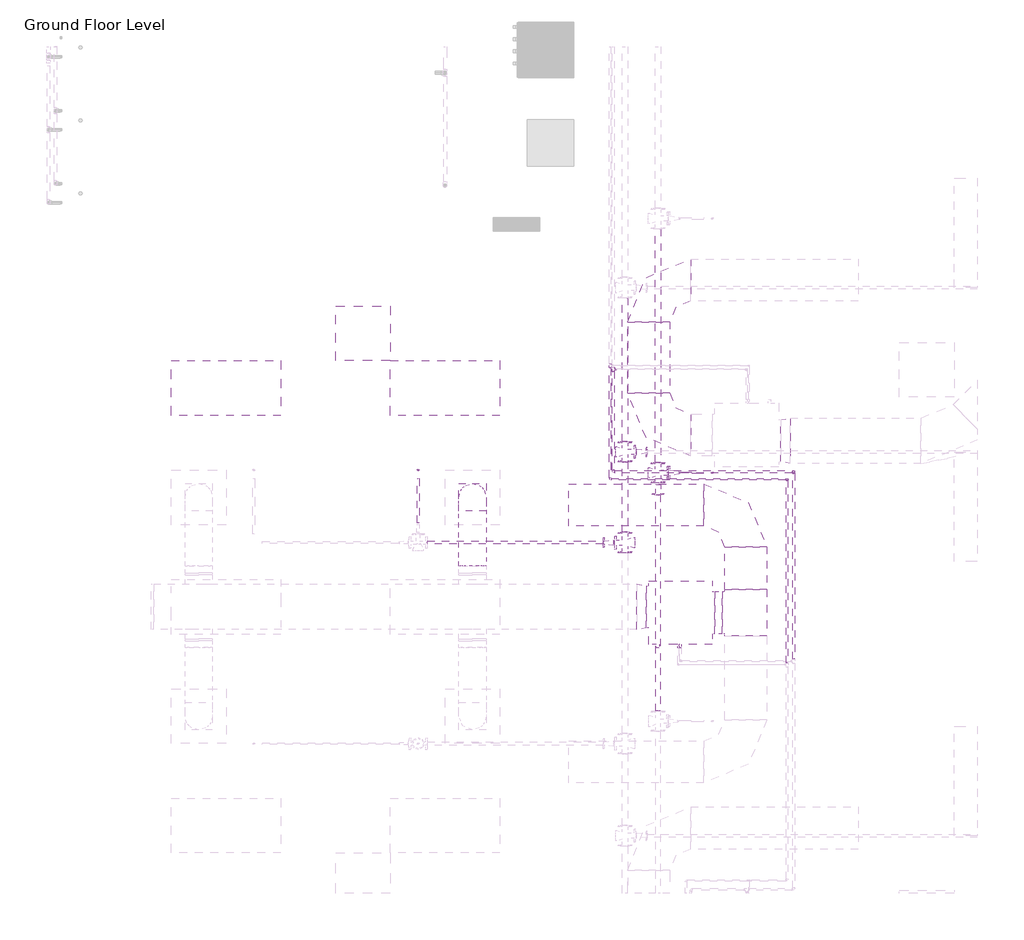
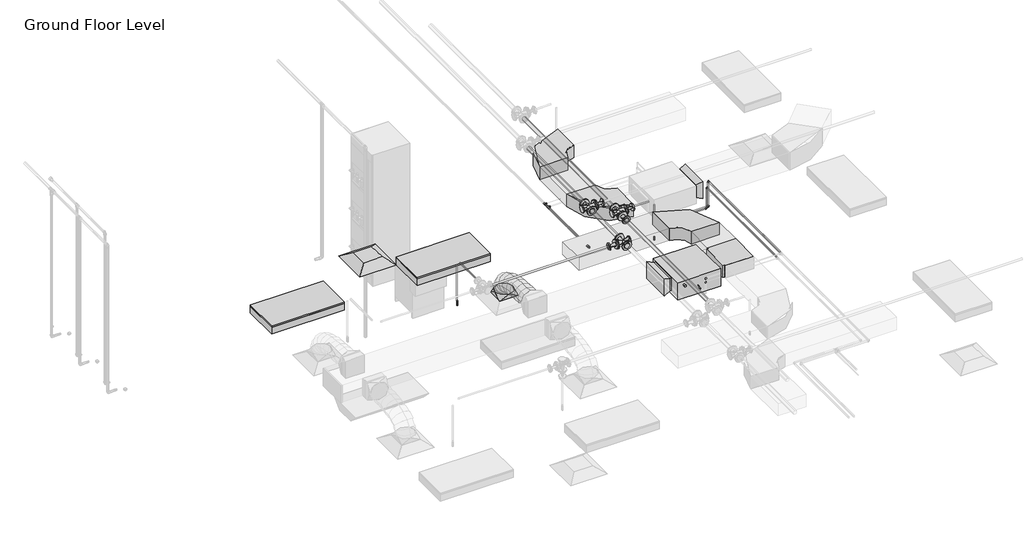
# One storey, part 62 of 74: 17 pipe fittings, 17 pipe segments, 7 duct fittings, 5 duct segments, 2 fire suppression terminals, 2 light fixtures, 1 air terminal, 1 proxy.
"""IFC4 building model written with IfcOpenShell, lengths in millimetres."""

from ifc_helpers import new_model, si_unit, point, frame, frame_2d, origin, place, context, project, spatial, polyline, circle_curve, ellipse_curve, trimmed, segment, composite_curve, outline, extrude, transform, mapped, element, save
from ifc_brep_helpers import plane_surface, cylinder_surface, advanced_brep
from components import m_return_diffuser_600_x_600_face_300_x_300_connection_ff221211, fcu_daikin_iu_bad131e0, m_rectangular_elbow_radius_1_w_54c96895, m_rectangular_tee_standard_fa4de0e8, m_rectangular_transition_angle_45_degree_2b595dfe, m_rectangular_to_round_transition_angle_45_degree_641efff0, m_sprinkler_dry_pendent_hosted_15_mm_dry_pendent_9bda8e11, m_sprinkler_pendent_15_mm_pendent_06fcbd8e, m_troffer_light_parabolic_rectangular1_0600x1200mm_4_lamp_86473d4a, m_elbow_generic_standard_73005802, m_elbow_generic_standard_bb5ffebe, m_reducer_flanged_cs_class_150_standard_9dfe9ec5, m_reducer_flanged_cs_class_150_standard_3ab32b2b, m_reducer_flanged_cs_class_150_standard_a7631c35, m_tee_generic_standard_cdc1cff5, m_tee_generic_standard_bbfc025c, m_tee_round_base_flanged_cs_class_150_standard_dd767e04, m_transition_generic_standard_e9aec4dd, m_transition_generic_standard_c2658a33

model = new_model("IFC4")

# Units and contexts
model_context = context("Model", 3, world=origin())
ifc_project = project(units=[si_unit("LENGTHUNIT", "METRE", prefix="MILLI")], contexts=[model_context])

# Site, building, storey
site = spatial("IfcSite", under=ifc_project)
building = spatial("IfcBuilding", under=site)
storey = spatial("IfcBuildingStorey", under=building, Name="Ground Floor Level", Elevation=900.0)

# Air terminal
placement = place(None, origin())
m_return_diffuser_600_x_600_face_300_x_300_connection_shape = m_return_diffuser_600_x_600_face_300_x_300_connection_ff221211(model_context)
element("IfcAirTerminal", 1, ObjectType="M_Return Diffuser : 600 x 600 Face 300 x 300 Connection", at=placement, inside=storey, context=model_context, shape_type="MappedRepresentation", body=[
    mapped(m_return_diffuser_600_x_600_face_300_x_300_connection_shape, transform((2762.7672395, 7135.2153534, 3650.0), x_axis=(1.0, 0.0, 0.0), y_axis=(0.0, 1.0, 0.0), z_axis=(0.0, 0.0, 1.0))),
])

# Proxy
fcu_daikin_iu_shape = fcu_daikin_iu_bad131e0(model_context)
element("IfcBuildingElementProxy", 2, Name="FCU-DAIKIN IU : 4.5kW, 230V/50Hz/1Ph", ObjectType="FCU-DAIKIN IU : 4.5kW, 230V/50Hz/1Ph", at=placement, inside=storey, context=model_context, shape_type="MappedRepresentation", body=[
    mapped(fcu_daikin_iu_shape, transform((6243.4139492, 4071.5199167, 3934.0875), x_axis=(0.0, -1.0, 0.0), y_axis=(1.0, 0.0, 0.0), z_axis=(0.0, 0.0, 1.0))),
])

# Duct fittings
m_rectangular_elbow_radius_1_w_shape = m_rectangular_elbow_radius_1_w_54c96895(model_context)
element("IfcDuctFitting", 3, ObjectType="M_Rectangular Elbow - Radius : 1 W", at=placement, inside=storey, context=model_context, shape_type="MappedRepresentation", body=[
    mapped(m_rectangular_elbow_radius_1_w_shape, transform((5893.4139492, 6019.6779527, 4075.2932729), x_axis=(0.0, -1.0, 0.0), y_axis=(1.0, 0.0, 0.0), z_axis=(0.0, 0.0, 1.0))),
])
element("IfcDuctFitting", 4, ObjectType="M_Rectangular Elbow - Radius : 1 W", at=placement, inside=storey, context=model_context, shape_type="MappedRepresentation", body=[
    mapped(m_rectangular_elbow_radius_1_w_shape, transform((5893.4139492, 7719.6783949, 4075.2932729), x_axis=(-1.0, 0.0, 0.0), y_axis=(0.0, -1.0, 0.0), z_axis=(0.0, 0.0, 1.0))),
])
element("IfcDuctFitting", 5, ObjectType="M_Rectangular Elbow - Radius : 1 W", at=placement, inside=storey, context=model_context, shape_type="MappedRepresentation", body=[
    mapped(m_rectangular_elbow_radius_1_w_shape, transform((6958.8139492, 5251.5199167, 4075.2875), x_axis=(0.0, 1.0, 0.0), y_axis=(-1.0, 0.0, 0.0), z_axis=(0.0, 0.0, 1.0))),
])
m_rectangular_tee_standard_shape = m_rectangular_tee_standard_fa4de0e8(model_context)
element("IfcDuctFitting", 6, ObjectType="M_Rectangular Tee : Standard", at=placement, inside=storey, context=model_context, shape_type="MappedRepresentation", body=[
    mapped(m_rectangular_tee_standard_shape, transform((6958.8139492, 4071.5199167, 4075.2875), x_axis=(0.0, -1.0, 0.0), y_axis=(1.0, 0.0, 0.0), z_axis=(0.0, 0.0, 1.0))),
])
m_rectangular_transition_angle_45_degree_shape = m_rectangular_transition_angle_45_degree_2b595dfe(model_context)
element("IfcDuctFitting", 7, ObjectType="M_Rectangular Transition - Angle : 45 Degree", at=placement, inside=storey, context=model_context, shape_type="MappedRepresentation", body=[
    mapped(m_rectangular_transition_angle_45_degree_shape, transform((7344.2139492, 5956.1779527, 4100.0057729), x_axis=(1.0, 0.0, 0.0), y_axis=(0.0, 1.0, 0.0), z_axis=(0.0, 0.0, 1.0))),
])
element("IfcDuctFitting", 8, ObjectType="M_Rectangular Transition - Angle : 45 Degree", at=placement, inside=storey, context=model_context, shape_type="MappedRepresentation", body=[
    mapped(m_rectangular_transition_angle_45_degree_shape, transform((5868.0139492, 4135.0199167, 4100.0), x_axis=(-1.0, 0.0, 0.0), y_axis=(0.0, -1.0, 0.0), z_axis=(0.0, 0.0, 1.0))),
])
m_rectangular_to_round_transition_angle_45_degree_shape = m_rectangular_to_round_transition_angle_45_degree_641efff0(model_context)
element("IfcDuctFitting", 9, ObjectType="M_Rectangular to Round Transition - Angle : 45 Degree", at=placement, inside=storey, context=model_context, shape_type="MappedRepresentation", body=[
    mapped(m_rectangular_to_round_transition_angle_45_degree_shape, transform((3962.7672395, 5335.2153534, 3751.6), x_axis=(0.0, 0.0, 1.0), y_axis=(-1.0, 0.0, 0.0), z_axis=(0.0, -1.0, 0.0))),
])

# Duct segments
element("IfcDuctSegment", 10, ObjectType="Flex - Round", at=placement, inside=storey, context=model_context, shape_type="AdvancedBrep", body=[
    advanced_brep(
    [(4112.7672395, 5335.2153534, 3826.6), (3962.7672395, 5185.2153534, 3826.6), (3812.7672395, 5335.2153534, 3826.6), (3962.7672395, 5485.2153534, 3826.6), (4112.7672395, 5335.2153534, 3857.9378899), (3962.7672395, 5185.2153534, 3832.2944495), (3812.7672395, 5335.2153534, 3857.9378899), (3962.7672395, 5485.2153534, 3883.5813304), (4112.7672395, 5318.1993029, 3906.2506504), (3962.7672395, 5184.4615918, 3834.4345644), (3812.7672395, 5318.1993029, 3906.2506504), (3962.7672395, 5451.9370141, 3978.0667363), (4112.7672395, 5271.0151016, 3968.7111185), (3962.7672395, 5166.8099301, 3857.8010943), (3812.7672395, 5271.0151016, 3968.7111185), (3962.7672395, 5375.220273, 4079.6211427), (4112.7672395, 5199.4586743, 4016.0693384), (3962.7672395, 5130.5257656, 3881.8150579), (3812.7672395, 5199.4586743, 4016.0693384), (3962.7672395, 5268.3915831, 4150.3236188), (4112.7672395, 5109.3259463, 4050.413244), (3962.7672395, 5065.7664368, 3906.4907592), (3812.7672395, 5109.3259463, 4050.413244), (3962.7672395, 5152.8854558, 4194.3357287), (4112.7672395, 5006.4128425, 4073.8307693), (3962.7672395, 4979.8531069, 3926.0400441), (3812.7672395, 5006.4128425, 4073.8307693), (3962.7672395, 5032.9725781, 4221.6214946), (4112.7672395, 4896.5152879, 4088.4098484), (3962.7672395, 4881.3654185, 3939.1054831), (3812.7672395, 4896.5152879, 4088.4098484), (3962.7672395, 4911.6651573, 4237.7142137), (4112.7672395, 4785.4292075, 4096.2384151), (3962.7672395, 4777.924683, 3946.3952596), (3812.7672395, 4785.4292075, 4096.2384151), (3962.7672395, 4792.9337321, 4246.0815706), (4112.7672395, 4678.9505265, 4099.4044036), (3962.7672395, 4676.2595056, 3949.4181256), (3812.7672395, 4678.9505265, 4099.4044036), (3962.7672395, 4681.6415474, 4249.3906816), (4112.7672395, 4582.8751699, 4099.9957478), (3962.7672395, 4583.7984029, 4249.9929065), (3812.7672395, 4582.8751699, 4099.9957478), (3962.7672395, 4581.9519368, 3949.998589)],
    [
        (0, 1, circle_curve(frame((3962.7672395, 5335.2153534, 3826.6), z_axis=(0.0, 0.0, -1.0), x_axis=(1.0, 0.0, 0.0)), 150.0)),
        (1, 2, circle_curve(frame((3962.7672395, 5335.2153534, 3826.6), z_axis=(0.0, 0.0, -1.0), x_axis=(1.0, 0.0, 0.0)), 150.0)),
        (2, 3, circle_curve(frame((3962.7672395, 5335.2153534, 3826.6), z_axis=(0.0, 0.0, -1.0), x_axis=(1.0, 0.0, 0.0)), 150.0)),
        (3, 0, circle_curve(frame((3962.7672395, 5335.2153534, 3826.6), z_axis=(0.0, 0.0, -1.0), x_axis=(1.0, 0.0, 0.0)), 150.0)),
        (0, 4),
        (4, 5, ellipse_curve(frame((3962.7672395, 5335.2153534, 3857.9378899), z_axis=(0.0, 0.1685115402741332, -0.9856996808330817), x_axis=(0.0, -0.9856996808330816, -0.16851154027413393)), 152.1761678, 150.0)),
        (5, 1),
        (5, 6, ellipse_curve(frame((3962.7672395, 5335.2153534, 3857.9378899), z_axis=(0.0, 0.1685115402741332, -0.9856996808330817), x_axis=(0.0, -0.9856996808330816, -0.16851154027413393)), 152.1761678, 150.0)),
        (6, 2),
        (6, 7, ellipse_curve(frame((3962.7672395, 5335.2153534, 3857.9378899), z_axis=(0.0, 0.1685115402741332, -0.9856996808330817), x_axis=(0.0, -0.9856996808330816, -0.16851154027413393)), 152.1761678, 150.0)),
        (7, 3),
        (7, 4, ellipse_curve(frame((3962.7672395, 5335.2153534, 3857.9378899), z_axis=(0.0, 0.1685115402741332, -0.9856996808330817), x_axis=(0.0, -0.9856996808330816, -0.16851154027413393)), 152.1761678, 150.0)),
        (4, 8),
        (8, 9, ellipse_curve(frame((3962.7672395, 5318.1993029, 3906.2506504), z_axis=(0.0, 0.47309586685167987, -0.8810109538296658), x_axis=(0.0, -0.8810109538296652, -0.4730958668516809)), 151.8002819, 150.0)),
        (9, 5),
        (9, 10, ellipse_curve(frame((3962.7672395, 5318.1993029, 3906.2506504), z_axis=(0.0, 0.47309586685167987, -0.8810109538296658), x_axis=(0.0, -0.8810109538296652, -0.4730958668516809)), 151.8002819, 150.0)),
        (10, 6),
        (10, 11, ellipse_curve(frame((3962.7672395, 5318.1993029, 3906.2506504), z_axis=(0.0, 0.47309586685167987, -0.8810109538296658), x_axis=(0.0, -0.8810109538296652, -0.4730958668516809)), 151.8002819, 150.0)),
        (11, 7),
        (11, 8, ellipse_curve(frame((3962.7672395, 5318.1993029, 3906.2506504), z_axis=(0.0, 0.47309586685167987, -0.8810109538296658), x_axis=(0.0, -0.8810109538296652, -0.4730958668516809)), 151.8002819, 150.0)),
        (8, 12),
        (12, 13, ellipse_curve(frame((3962.7672395, 5271.0151016, 3968.7111185), z_axis=(0.0, 0.7287924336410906, -0.6847346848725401), x_axis=(0.0, -0.6847346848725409, -0.7287924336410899)), 152.1832817, 150.0)),
        (13, 9),
        (13, 14, ellipse_curve(frame((3962.7672395, 5271.0151016, 3968.7111185), z_axis=(0.0, 0.7287924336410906, -0.6847346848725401), x_axis=(0.0, -0.6847346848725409, -0.7287924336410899)), 152.1832817, 150.0)),
        (14, 10),
        (14, 15, ellipse_curve(frame((3962.7672395, 5271.0151016, 3968.7111185), z_axis=(0.0, 0.7287924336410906, -0.6847346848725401), x_axis=(0.0, -0.6847346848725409, -0.7287924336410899)), 152.1832817, 150.0)),
        (15, 11),
        (15, 12, ellipse_curve(frame((3962.7672395, 5271.0151016, 3968.7111185), z_axis=(0.0, 0.7287924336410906, -0.6847346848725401), x_axis=(0.0, -0.6847346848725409, -0.7287924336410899)), 152.1832817, 150.0)),
        (12, 16),
        (16, 17, ellipse_curve(frame((3962.7672395, 5199.4586743, 4016.0693384), z_axis=(0.0, 0.8895898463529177, -0.45676022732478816), x_axis=(0.0, -0.456760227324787, -0.8895898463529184)), 150.9170558, 150.0)),
        (17, 13),
        (17, 18, ellipse_curve(frame((3962.7672395, 5199.4586743, 4016.0693384), z_axis=(0.0, 0.8895898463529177, -0.45676022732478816), x_axis=(0.0, -0.456760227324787, -0.8895898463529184)), 150.9170558, 150.0)),
        (18, 14),
        (18, 19, ellipse_curve(frame((3962.7672395, 5199.4586743, 4016.0693384), z_axis=(0.0, 0.8895898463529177, -0.45676022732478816), x_axis=(0.0, -0.456760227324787, -0.8895898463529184)), 150.9170558, 150.0)),
        (19, 15),
        (19, 16, ellipse_curve(frame((3962.7672395, 5199.4586743, 4016.0693384), z_axis=(0.0, 0.8895898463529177, -0.45676022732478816), x_axis=(0.0, -0.456760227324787, -0.8895898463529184)), 150.9170558, 150.0)),
        (16, 20),
        (20, 21, ellipse_curve(frame((3962.7672395, 5109.3259463, 4050.413244), z_axis=(0.0, 0.9571228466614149, -0.28968233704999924), x_axis=(0.0, -0.28968233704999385, -0.9571228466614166)), 150.3699188, 150.0)),
        (21, 17),
        (21, 22, ellipse_curve(frame((3962.7672395, 5109.3259463, 4050.413244), z_axis=(0.0, 0.9571228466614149, -0.28968233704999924), x_axis=(0.0, -0.28968233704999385, -0.9571228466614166)), 150.3699188, 150.0)),
        (22, 18),
        (22, 23, ellipse_curve(frame((3962.7672395, 5109.3259463, 4050.413244), z_axis=(0.0, 0.9571228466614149, -0.28968233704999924), x_axis=(0.0, -0.28968233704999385, -0.9571228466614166)), 150.3699188, 150.0)),
        (23, 19),
        (23, 20, ellipse_curve(frame((3962.7672395, 5109.3259463, 4050.413244), z_axis=(0.0, 0.9571228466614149, -0.28968233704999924), x_axis=(0.0, -0.28968233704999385, -0.9571228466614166)), 150.3699188, 150.0)),
        (20, 24),
        (24, 25, ellipse_curve(frame((3962.7672395, 5006.4128425, 4073.8307693), z_axis=(0.0, 0.9842327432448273, -0.17687822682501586), x_axis=(0.0, -0.176878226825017, -0.9842327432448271)), 150.1583099, 150.0)),
        (25, 21),
        (25, 26, ellipse_curve(frame((3962.7672395, 5006.4128425, 4073.8307693), z_axis=(0.0, 0.9842327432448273, -0.17687822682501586), x_axis=(0.0, -0.176878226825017, -0.9842327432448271)), 150.1583099, 150.0)),
        (26, 22),
        (26, 27, ellipse_curve(frame((3962.7672395, 5006.4128425, 4073.8307693), z_axis=(0.0, 0.9842327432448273, -0.17687822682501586), x_axis=(0.0, -0.176878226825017, -0.9842327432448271)), 150.1583099, 150.0)),
        (27, 23),
        (27, 24, ellipse_curve(frame((3962.7672395, 5006.4128425, 4073.8307693), z_axis=(0.0, 0.9842327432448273, -0.17687822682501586), x_axis=(0.0, -0.176878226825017, -0.9842327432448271)), 150.1583099, 150.0)),
        (24, 28),
        (28, 29, ellipse_curve(frame((3962.7672395, 4896.5152879, 4088.4098484), z_axis=(0.0, 0.9948913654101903, -0.10095133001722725), x_axis=(0.0, -0.10095133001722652, -0.9948913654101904)), 150.0710233, 150.0)),
        (29, 25),
        (29, 30, ellipse_curve(frame((3962.7672395, 4896.5152879, 4088.4098484), z_axis=(0.0, 0.9948913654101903, -0.10095133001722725), x_axis=(0.0, -0.10095133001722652, -0.9948913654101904)), 150.0710233, 150.0)),
        (30, 26),
        (30, 31, ellipse_curve(frame((3962.7672395, 4896.5152879, 4088.4098484), z_axis=(0.0, 0.9948913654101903, -0.10095133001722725), x_axis=(0.0, -0.10095133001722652, -0.9948913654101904)), 150.0710233, 150.0)),
        (31, 27),
        (31, 28, ellipse_curve(frame((3962.7672395, 4896.5152879, 4088.4098484), z_axis=(0.0, 0.9948913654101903, -0.10095133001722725), x_axis=(0.0, -0.10095133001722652, -0.9948913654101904)), 150.0710233, 150.0)),
        (28, 32),
        (32, 33, ellipse_curve(frame((3962.7672395, 4785.4292075, 4096.2384151), z_axis=(0.0, 0.9987482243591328, -0.05001983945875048), x_axis=(0.0, -0.05001983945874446, -0.9987482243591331)), 150.0309606, 150.0)),
        (33, 29),
        (33, 34, ellipse_curve(frame((3962.7672395, 4785.4292075, 4096.2384151), z_axis=(0.0, 0.9987482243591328, -0.05001983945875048), x_axis=(0.0, -0.05001983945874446, -0.9987482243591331)), 150.0309606, 150.0)),
        (34, 30),
        (34, 35, ellipse_curve(frame((3962.7672395, 4785.4292075, 4096.2384151), z_axis=(0.0, 0.9987482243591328, -0.05001983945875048), x_axis=(0.0, -0.05001983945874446, -0.9987482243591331)), 150.0309606, 150.0)),
        (35, 31),
        (35, 32, ellipse_curve(frame((3962.7672395, 4785.4292075, 4096.2384151), z_axis=(0.0, 0.9987482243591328, -0.05001983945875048), x_axis=(0.0, -0.05001983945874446, -0.9987482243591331)), 150.0309606, 150.0)),
        (32, 36),
        (36, 37, ellipse_curve(frame((3962.7672395, 4678.9505265, 4099.4044036), z_axis=(0.0, 0.9998390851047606, -0.017938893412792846), x_axis=(0.0, -0.01793889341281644, -0.99983908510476)), 150.0104169, 150.0)),
        (37, 33),
        (37, 38, ellipse_curve(frame((3962.7672395, 4678.9505265, 4099.4044036), z_axis=(0.0, 0.9998390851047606, -0.017938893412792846), x_axis=(0.0, -0.01793889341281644, -0.99983908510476)), 150.0104169, 150.0)),
        (38, 34),
        (38, 39, ellipse_curve(frame((3962.7672395, 4678.9505265, 4099.4044036), z_axis=(0.0, 0.9998390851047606, -0.017938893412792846), x_axis=(0.0, -0.01793889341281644, -0.99983908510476)), 150.0104169, 150.0)),
        (39, 35),
        (39, 36, ellipse_curve(frame((3962.7672395, 4678.9505265, 4099.4044036), z_axis=(0.0, 0.9998390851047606, -0.017938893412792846), x_axis=(0.0, -0.01793889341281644, -0.99983908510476)), 150.0104169, 150.0)),
        (40, 41, circle_curve(frame((3962.7672395, 4582.8751699, 4099.9957478), z_axis=(0.0, -0.9999810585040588, 0.006154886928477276), x_axis=(1.0, 0.0, 0.0)), 150.0)),
        (41, 42, circle_curve(frame((3962.7672395, 4582.8751699, 4099.9957478), z_axis=(0.0, -0.9999810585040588, 0.006154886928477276), x_axis=(1.0, 0.0, 0.0)), 150.0)),
        (42, 43, circle_curve(frame((3962.7672395, 4582.8751699, 4099.9957478), z_axis=(0.0, -0.9999810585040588, 0.006154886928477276), x_axis=(1.0, 0.0, 0.0)), 150.0)),
        (43, 40, circle_curve(frame((3962.7672395, 4582.8751699, 4099.9957478), z_axis=(0.0, -0.9999810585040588, 0.006154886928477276), x_axis=(1.0, 0.0, 0.0)), 150.0)),
        (36, 40),
        (43, 37),
        (42, 38),
        (41, 39),
    ],
    [
        plane_surface(frame((3962.7672395, 5185.2153534, 3826.6), z_axis=(0.0, 0.0, -1.0), x_axis=(1.0, 0.0, 0.0))),
        cylinder_surface(frame((3962.7672395, 5335.2153534, 3826.6), z_axis=(0.0, 0.0, -1.0), x_axis=(1.0, 0.0, 0.0)), 150.0),
        cylinder_surface(frame((3962.7672395, 5335.2153534, 3857.9378899), z_axis=(0.0, 0.3322035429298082, -0.9432077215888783), x_axis=(1.0, 0.0, 0.0)), 150.0),
        cylinder_surface(frame((3962.7672395, 5318.1993029, 3906.2506504), z_axis=(0.0, 0.6027667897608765, -0.797917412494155), x_axis=(1.0, 0.0, 0.0)), 150.0),
        cylinder_surface(frame((3962.7672395, 5271.0151016, 3968.7111185), z_axis=(0.0, 0.8339069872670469, -0.5519050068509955), x_axis=(1.0, 0.0, 0.0)), 150.0),
        cylinder_surface(frame((3962.7672395, 5199.4586743, 4016.0693384), z_axis=(0.0, 0.934461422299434, -0.35606439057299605), x_axis=(1.0, 0.0, 0.0)), 150.0),
        cylinder_surface(frame((3962.7672395, 5109.3259463, 4050.413244), z_axis=(0.0, 0.9750751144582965, -0.22187501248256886), x_axis=(1.0, 0.0, 0.0)), 150.0),
        cylinder_surface(frame((3962.7672395, 5006.4128425, 4073.8307693), z_axis=(0.0, 0.9913150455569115, -0.1315084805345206), x_axis=(1.0, 0.0, 0.0)), 150.0),
        cylinder_surface(frame((3962.7672395, 4896.5152879, 4088.4098484), z_axis=(0.0, 0.997525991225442, -0.07029862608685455), x_axis=(1.0, 0.0, 0.0)), 150.0),
        cylinder_surface(frame((3962.7672395, 4785.4292075, 4096.2384151), z_axis=(0.0, 0.9995582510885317, -0.029720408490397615), x_axis=(1.0, 0.0, 0.0)), 150.0),
        plane_surface(frame((3962.7672395, 4581.9519368, 3949.998589), z_axis=(0.0, -0.9999810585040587, 0.006154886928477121), x_axis=(1.0, 0.0, 0.0))),
        cylinder_surface(frame((3962.7672395, 4678.9505265, 4099.4044036), z_axis=(0.0, 0.9999810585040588, -0.006154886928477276), x_axis=(1.0, 0.0, 0.0)), 150.0),
    ],
    [
        (0, [[1, 2, 3, 4]]),
        (1, [[-1, 5, 6, 7]]),
        (1, [[-2, -7, 8, 9]]),
        (1, [[-3, -9, 10, 11]]),
        (1, [[-4, -11, 12, -5]]),
        (2, [[-6, 13, 14, 15]]),
        (2, [[-8, -15, 16, 17]]),
        (2, [[-10, -17, 18, 19]]),
        (2, [[-12, -19, 20, -13]]),
        (3, [[-14, 21, 22, 23]]),
        (3, [[-16, -23, 24, 25]]),
        (3, [[-18, -25, 26, 27]]),
        (3, [[-20, -27, 28, -21]]),
        (4, [[-22, 29, 30, 31]]),
        (4, [[-24, -31, 32, 33]]),
        (4, [[-26, -33, 34, 35]]),
        (4, [[-28, -35, 36, -29]]),
        (5, [[-30, 37, 38, 39]]),
        (5, [[-32, -39, 40, 41]]),
        (5, [[-34, -41, 42, 43]]),
        (5, [[-36, -43, 44, -37]]),
        (6, [[-38, 45, 46, 47]]),
        (6, [[-40, -47, 48, 49]]),
        (6, [[-42, -49, 50, 51]]),
        (6, [[-44, -51, 52, -45]]),
        (7, [[-46, 53, 54, 55]]),
        (7, [[-48, -55, 56, 57]]),
        (7, [[-50, -57, 58, 59]]),
        (7, [[-52, -59, 60, -53]]),
        (8, [[-54, 61, 62, 63]]),
        (8, [[-56, -63, 64, 65]]),
        (8, [[-58, -65, 66, 67]]),
        (8, [[-60, -67, 68, -61]]),
        (9, [[-62, 69, 70, 71]]),
        (9, [[-64, -71, 72, 73]]),
        (9, [[-66, -73, 74, 75]]),
        (9, [[-68, -75, 76, -69]]),
        (10, [[77, 78, 79, 80]]),
        (11, [[-70, 81, -80, 82]]),
        (11, [[-72, -82, -79, 83]]),
        (11, [[-74, -83, -78, 84]]),
        (11, [[-76, -84, -77, -81]]),
    ],
),
])
element("IfcDuctSegment", 11, ObjectType="Radius Elbows / Taps", at=placement, inside=storey, context=model_context, shape_type="SweptSolid", body=[
    extrude(outline(polyline([(6124.3514492, 6481.5529527), (5662.4764492, 6481.5529527), (5662.4764492, 7257.8033949), (6124.3514492, 7257.8033949), (6124.3514492, 6481.5529527)])), frame((0.0, 0.0, 3968.1432729), z_axis=(0.0, 0.0, 1.0), x_axis=(1.0, 0.0, 0.0)), (0.0, 0.0, 1.0), 214.3),
])
element("IfcDuctSegment", 12, ObjectType="Radius Elbows / Taps", at=placement, inside=storey, context=model_context, shape_type="SweptSolid", body=[
    extrude(outline(polyline([(6618.8139492, 3840.5824167), (6618.8139492, 4302.4574167), (6702.8764492, 4302.4574167), (6702.8764492, 3840.5824167), (6618.8139492, 3840.5824167)])), frame((0.0, 0.0, 3968.1375), z_axis=(0.0, 0.0, 1.0), x_axis=(1.0, 0.0, 0.0)), (0.0, 0.0, 1.0), 214.3),
])
element("IfcDuctSegment", 13, ObjectType="Radius Elbows / Taps", at=placement, inside=storey, context=model_context, shape_type="SweptSolid", body=[
    extrude(outline(polyline([(7189.7514492, 4327.4574167), (6727.8764492, 4327.4574167), (6727.8764492, 4789.6449167), (7189.7514492, 4789.6449167), (7189.7514492, 4327.4574167)])), frame((0.0, 0.0, 3968.1375), z_axis=(0.0, 0.0, 1.0), x_axis=(1.0, 0.0, 0.0)), (0.0, 0.0, 1.0), 214.3),
])
element("IfcDuctSegment", 14, ObjectType="Radius Elbows / Taps", at=placement, inside=storey, context=model_context, shape_type="SweptSolid", body=[
    extrude(outline(polyline([(6496.9389492, 5482.4574167), (6496.9389492, 5020.5824167), (5018.8139492, 5020.5824167), (5018.8139492, 5482.4574167), (6496.9389492, 5482.4574167)])), frame((0.0, 0.0, 3968.1375), z_axis=(0.0, 0.0, 1.0), x_axis=(1.0, 0.0, 0.0)), (0.0, 0.0, 1.0), 214.3),
])

# Fire suppression terminals
m_sprinkler_dry_pendent_hosted_15_mm_dry_pendent_shape = m_sprinkler_dry_pendent_hosted_15_mm_dry_pendent_9bda8e11(model_context)
element("IfcFireSuppressionTerminal", 15, ObjectType="M_Sprinkler - Dry - Pendent - Hosted : 15 mm Dry Pendent", at=placement, inside=storey, context=model_context, shape_type="MappedRepresentation", body=[
    mapped(m_sprinkler_dry_pendent_hosted_15_mm_dry_pendent_shape, transform((3367.3772563, 5635.2153534, 3650.0), x_axis=(1.0, 0.0, 0.0), y_axis=(0.0, -1.0, 0.0), z_axis=(0.0, 0.0, -1.0))),
])
m_sprinkler_pendent_15_mm_pendent_shape = m_sprinkler_pendent_15_mm_pendent_06fcbd8e(model_context)
element("IfcFireSuppressionTerminal", 16, ObjectType="M_Sprinkler - Pendent : 15 mm Pendent", at=placement, inside=storey, context=model_context, shape_type="MappedRepresentation", body=[
    mapped(m_sprinkler_pendent_15_mm_pendent_shape, transform((6592.5481019, 5605.2153637, 3650.0), x_axis=(1.0, 0.0, 0.0), y_axis=(0.0, 1.0, 0.0), z_axis=(0.0, 0.0, 1.0))),
])

# Light fixtures
m_troffer_light_parabolic_rectangular1_0600x1200mm_4_lamp_shape = m_troffer_light_parabolic_rectangular1_0600x1200mm_4_lamp_86473d4a(model_context)
element("IfcLightFixture", 17, ObjectType="M_Troffer Light - Parabolic Rectangular1 : 0600x1200mm(4 Lamp) - 277V 2", at=placement, inside=storey, context=model_context, shape_type="MappedRepresentation", body=[
    mapped(m_troffer_light_parabolic_rectangular1_0600x1200mm_4_lamp_shape, transform((1281.4707411, 6594.6812855, 3650.0), x_axis=(1.0, 0.0, 0.0), y_axis=(0.0, 1.0, 0.0), z_axis=(0.0, 0.0, 1.0))),
])
element("IfcLightFixture", 18, ObjectType="M_Troffer Light - Parabolic Rectangular1 : 0600x1200mm(4 Lamp) - 277V 2", at=placement, inside=storey, context=model_context, shape_type="MappedRepresentation", body=[
    mapped(m_troffer_light_parabolic_rectangular1_0600x1200mm_4_lamp_shape, transform((3681.4707411, 6594.6812855, 3650.0), x_axis=(1.0, 0.0, 0.0), y_axis=(0.0, 1.0, 0.0), z_axis=(0.0, 0.0, 1.0))),
])

# Pipe fittings
m_elbow_generic_standard_shape = m_elbow_generic_standard_73005802(model_context)
element("IfcPipeFitting", 19, ObjectType="M_Elbow - Generic : Standard", at=placement, inside=storey, context=model_context, shape_type="MappedRepresentation", body=[
    mapped(m_elbow_generic_standard_shape, transform((7485.0672395, 5616.0098545, 4300.0), x_axis=(0.0, 1.0, 0.0), y_axis=(0.0, 0.0, -1.0), z_axis=(-1.0, 0.0, 0.0))),
])
element("IfcPipeFitting", 20, ObjectType="M_Elbow - Generic : Standard", at=placement, inside=storey, context=model_context, shape_type="MappedRepresentation", body=[
    mapped(m_elbow_generic_standard_shape, transform((7485.0672395, 5616.0098545, 3851.8370709), x_axis=(0.0, 0.0, -1.0), y_axis=(-1.0, 0.0, 0.0), z_axis=(0.0, 1.0, 0.0))),
])
element("IfcPipeFitting", 21, ObjectType="M_Elbow - Generic : Standard", at=placement, inside=storey, context=model_context, shape_type="MappedRepresentation", body=[
    mapped(m_elbow_generic_standard_shape, transform((5505.0672395, 5616.0098545, 3851.8370709), x_axis=(0.0, -1.0, 0.0), y_axis=(1.0, 0.0, 0.0), z_axis=(0.0, 0.0, 1.0))),
])
m_elbow_generic_standard_2_shape = m_elbow_generic_standard_bb5ffebe(model_context)
element("IfcPipeFitting", 22, ObjectType="M_Elbow - Generic : Standard", at=placement, inside=storey, context=model_context, shape_type="MappedRepresentation", body=[
    mapped(m_elbow_generic_standard_2_shape, transform((7412.2057053, 5534.0185138, 4265.0), x_axis=(0.0, 1.0, 0.0), y_axis=(0.0, 0.0, -1.0), z_axis=(-1.0, 0.0, 0.0))),
])
element("IfcPipeFitting", 23, ObjectType="M_Elbow - Generic : Standard", at=placement, inside=storey, context=model_context, shape_type="MappedRepresentation", body=[
    mapped(m_elbow_generic_standard_2_shape, transform((7412.2057053, 5534.0185138, 3894.9), x_axis=(0.0, 0.0, -1.0), y_axis=(-1.0, 0.0, 0.0), z_axis=(0.0, 1.0, 0.0))),
])
element("IfcPipeFitting", 24, ObjectType="M_Elbow - Generic : Standard", at=placement, inside=storey, context=model_context, shape_type="MappedRepresentation", body=[
    mapped(m_elbow_generic_standard_2_shape, transform((5472.2057053, 5534.0185138, 3894.9), x_axis=(0.0, -1.0, 0.0), y_axis=(1.0, 0.0, 0.0), z_axis=(0.0, 0.0, 1.0))),
])
m_reducer_flanged_cs_class_150_standard_shape = m_reducer_flanged_cs_class_150_standard_9dfe9ec5(model_context)
element("IfcPipeFitting", 25, ObjectType="M_Reducer - Flanged - CS - Class 150 : Standard", at=placement, inside=storey, context=model_context, shape_type="MappedRepresentation", body=[
    mapped(m_reducer_flanged_cs_class_150_standard_shape, transform((6111.057812, 5605.2153637, 4291.250653), x_axis=(1.0, 0.0, 0.0), y_axis=(0.0, 0.0, -1.0), z_axis=(0.0, 1.0, 0.0))),
])
m_reducer_flanged_cs_class_150_standard_2_shape = m_reducer_flanged_cs_class_150_standard_3ab32b2b(model_context)
element("IfcPipeFitting", 26, ObjectType="M_Reducer - Flanged - CS - Class 150 : Standard", at=placement, inside=storey, context=model_context, shape_type="MappedRepresentation", body=[
    mapped(m_reducer_flanged_cs_class_150_standard_2_shape, transform((5997.057812, 5491.2153637, 4291.0695218), x_axis=(0.0, -1.0, 0.0), y_axis=(1.0, 0.0, 0.0), z_axis=(0.0, 0.0, 1.0))),
])
m_reducer_flanged_cs_class_150_standard_3_shape = m_reducer_flanged_cs_class_150_standard_a7631c35(model_context)
element("IfcPipeFitting", 27, ObjectType="M_Reducer - Flanged - CS - Class 150 : Standard", at=placement, inside=storey, context=model_context, shape_type="MappedRepresentation", body=[
    mapped(m_reducer_flanged_cs_class_150_standard_3_shape, transform((5749.869498, 5835.2153534, 4360.0), x_axis=(1.0, 0.0, 0.0), y_axis=(0.0, 0.0, 1.0), z_axis=(0.0, -1.0, 0.0))),
])
element("IfcPipeFitting", 28, ObjectType="M_Reducer - Flanged - CS - Class 150 : Standard", at=placement, inside=storey, context=model_context, shape_type="MappedRepresentation", body=[
    mapped(m_reducer_flanged_cs_class_150_standard_3_shape, transform((5521.869498, 4839.8698912, 4360.0), x_axis=(-1.0, 0.0, 0.0), y_axis=(0.0, -1.0, 0.0), z_axis=(0.0, 0.0, 1.0))),
])
m_tee_generic_standard_shape = m_tee_generic_standard_cdc1cff5(model_context)
element("IfcPipeFitting", 29, ObjectType="M_Tee - Generic : Standard", at=placement, inside=storey, context=model_context, shape_type="MappedRepresentation", body=[
    mapped(m_tee_generic_standard_shape, transform((5472.2057053, 6781.5253374, 3894.9), x_axis=(0.0, 1.0, 0.0), y_axis=(-1.0, 0.0, 0.0), z_axis=(0.0, 0.0, 1.0))),
])
m_tee_generic_standard_2_shape = m_tee_generic_standard_bbfc025c(model_context)
element("IfcPipeFitting", 30, ObjectType="M_Tee - Generic : Standard", at=placement, inside=storey, context=model_context, shape_type="MappedRepresentation", body=[
    mapped(m_tee_generic_standard_2_shape, transform((5505.0672395, 6741.4098545, 3851.8370709), x_axis=(0.0, 1.0, 0.0), y_axis=(-1.0, 0.0, 0.0), z_axis=(0.0, 0.0, 1.0))),
])
m_tee_round_base_flanged_cs_class_150_standard_shape = m_tee_round_base_flanged_cs_class_150_standard_dd767e04(model_context)
element("IfcPipeFitting", 31, ObjectType="M_Tee Round Base - Flanged - CS - Class 150 : Standard", at=placement, inside=storey, context=model_context, shape_type="MappedRepresentation", body=[
    mapped(m_tee_round_base_flanged_cs_class_150_standard_shape, transform((5997.057812, 5605.2153637, 4291.0695218), x_axis=(0.0, 1.0, 0.0), y_axis=(-1.0, 0.0, 0.0), z_axis=(0.0, 0.0, 1.0))),
])
element("IfcPipeFitting", 32, ObjectType="M_Tee Round Base - Flanged - CS - Class 150 : Standard", at=placement, inside=storey, context=model_context, shape_type="MappedRepresentation", body=[
    mapped(m_tee_round_base_flanged_cs_class_150_standard_shape, transform((5635.869498, 5835.2153534, 4360.0), x_axis=(0.0, 1.0, 0.0), y_axis=(-1.0, 0.0, 0.0), z_axis=(0.0, 0.0, 1.0))),
])
element("IfcPipeFitting", 33, ObjectType="M_Tee Round Base - Flanged - CS - Class 150 : Standard", at=placement, inside=storey, context=model_context, shape_type="MappedRepresentation", body=[
    mapped(m_tee_round_base_flanged_cs_class_150_standard_shape, transform((5635.869498, 4839.8698912, 4360.0), x_axis=(0.0, 1.0, 0.0), y_axis=(1.0, 0.0, 0.0), z_axis=(0.0, 0.0, -1.0))),
])
m_transition_generic_standard_shape = m_transition_generic_standard_e9aec4dd(model_context)
element("IfcPipeFitting", 34, ObjectType="M_Transition - Generic : Standard", at=placement, inside=storey, context=model_context, shape_type="MappedRepresentation", body=[
    mapped(m_transition_generic_standard_shape, transform((5530.4672395, 6741.4098545, 3851.8370709), x_axis=(1.0, 0.0, 0.0), y_axis=(0.0, 1.0, 0.0), z_axis=(0.0, 0.0, 1.0))),
])
m_transition_generic_standard_2_shape = m_transition_generic_standard_c2658a33(model_context)
element("IfcPipeFitting", 35, ObjectType="M_Transition - Generic : Standard", at=placement, inside=storey, context=model_context, shape_type="MappedRepresentation", body=[
    mapped(m_transition_generic_standard_2_shape, transform((5494.4307053, 6781.5253374, 3894.9), x_axis=(1.0, 0.0, 0.0), y_axis=(0.0, 1.0, 0.0), z_axis=(0.0, 0.0, 1.0))),
])

# Pipe segments
element("IfcPipeSegment", 36, ObjectType="Copper", at=placement, inside=storey, context=model_context, shape_type="SweptSolid", body=[
    extrude(outline(composite_curve([segment(trimmed(circle_curve(frame_2d((3894.9, 5472.2057053)), 8.1), [point((3894.9, 5464.1057053))], [point((3886.8, 5472.2057053))], False, "CARTESIAN"), True, "CONTINUOUS"), segment(trimmed(circle_curve(frame_2d((3894.9, 5472.2057053)), 8.1), [point((3886.8, 5472.2057053))], [point((3894.9, 5480.3057053))], False, "CARTESIAN"), True, "CONTINUOUS"), segment(trimmed(circle_curve(frame_2d((3894.9, 5472.2057053)), 8.1), [point((3894.9, 5480.3057053))], [point((3903.0, 5472.2057053))], False, "CARTESIAN"), True, "CONTINUOUS"), segment(trimmed(circle_curve(frame_2d((3894.9, 5472.2057053)), 8.1), [point((3903.0, 5472.2057053))], [point((3894.9, 5464.1057053))], False, "CARTESIAN"), True, "CONTINUOUS")], self_intersect=False)), frame((0.0, 5549.8935138, 0.0), z_axis=(0.0, 1.0, 0.0), x_axis=(0.0, 0.0, 1.0)), (0.0, 0.0, 1.0), 1209.4068236),
])
element("IfcPipeSegment", 37, ObjectType="Copper", at=placement, inside=storey, context=model_context, shape_type="SweptSolid", body=[
    extrude(outline(composite_curve([segment(trimmed(circle_curve(frame_2d((3851.8370709, 5505.0672395)), 11.5), [point((3851.8370709, 5493.5672395))], [point((3840.3370709, 5505.0672395))], False, "CARTESIAN"), True, "CONTINUOUS"), segment(trimmed(circle_curve(frame_2d((3851.8370709, 5505.0672395)), 11.5), [point((3840.3370709, 5505.0672395))], [point((3851.8370709, 5516.5672395))], False, "CARTESIAN"), True, "CONTINUOUS"), segment(trimmed(circle_curve(frame_2d((3851.8370709, 5505.0672395)), 11.5), [point((3851.8370709, 5516.5672395))], [point((3863.3370709, 5505.0672395))], False, "CARTESIAN"), True, "CONTINUOUS"), segment(trimmed(circle_curve(frame_2d((3851.8370709, 5505.0672395)), 11.5), [point((3863.3370709, 5505.0672395))], [point((3851.8370709, 5493.5672395))], False, "CARTESIAN"), True, "CONTINUOUS")], self_intersect=False)), frame((0.0, 5635.0598545, 0.0), z_axis=(0.0, 1.0, 0.0), x_axis=(0.0, 0.0, 1.0)), (0.0, 0.0, 1.0), 1080.95),
])
element("IfcPipeSegment", 38, ObjectType="Copper", at=placement, inside=storey, context=model_context, shape_type="SweptSolid", body=[
    extrude(outline(composite_curve([segment(trimmed(circle_curve(frame_2d((5616.0098545, 3851.8370709)), 11.5), [point((5627.5098545, 3851.8370709))], [point((5616.0098545, 3840.3370709))], False, "CARTESIAN"), True, "CONTINUOUS"), segment(trimmed(circle_curve(frame_2d((5616.0098545, 3851.8370709)), 11.5), [point((5616.0098545, 3840.3370709))], [point((5604.5098545, 3851.8370709))], False, "CARTESIAN"), True, "CONTINUOUS"), segment(trimmed(circle_curve(frame_2d((5616.0098545, 3851.8370709)), 11.5), [point((5604.5098545, 3851.8370709))], [point((5616.0098545, 3863.3370709))], False, "CARTESIAN"), True, "CONTINUOUS"), segment(trimmed(circle_curve(frame_2d((5616.0098545, 3851.8370709)), 11.5), [point((5616.0098545, 3863.3370709))], [point((5627.5098545, 3851.8370709))], False, "CARTESIAN"), True, "CONTINUOUS")], self_intersect=False)), frame((5524.1172395, 0.0, 0.0), z_axis=(1.0, 0.0, 0.0), x_axis=(0.0, 1.0, 0.0)), (0.0, 0.0, 1.0), 1941.9),
])
element("IfcPipeSegment", 39, ObjectType="Copper", at=placement, inside=storey, context=model_context, shape_type="SweptSolid", body=[
    extrude(outline(composite_curve([segment(trimmed(circle_curve(frame_2d((5534.0185138, 3894.9)), 8.1), [point((5542.1185138, 3894.9))], [point((5534.0185138, 3886.8))], False, "CARTESIAN"), True, "CONTINUOUS"), segment(trimmed(circle_curve(frame_2d((5534.0185138, 3894.9)), 8.1), [point((5534.0185138, 3886.8))], [point((5525.9185138, 3894.9))], False, "CARTESIAN"), True, "CONTINUOUS"), segment(trimmed(circle_curve(frame_2d((5534.0185138, 3894.9)), 8.1), [point((5525.9185138, 3894.9))], [point((5534.0185138, 3903.0))], False, "CARTESIAN"), True, "CONTINUOUS"), segment(trimmed(circle_curve(frame_2d((5534.0185138, 3894.9)), 8.1), [point((5534.0185138, 3903.0))], [point((5542.1185138, 3894.9))], False, "CARTESIAN"), True, "CONTINUOUS")], self_intersect=False)), frame((5488.0807053, 0.0, 0.0), z_axis=(1.0, 0.0, 0.0), x_axis=(0.0, 1.0, 0.0)), (0.0, 0.0, 1.0), 1908.25),
])
element("IfcPipeSegment", 40, ObjectType="Copper", at=placement, inside=storey, context=model_context, shape_type="SweptSolid", body=[
    extrude(outline(composite_curve([segment(trimmed(circle_curve(frame_2d((4265.0, 7412.2057053)), 8.1), [point((4265.0, 7404.1057053))], [point((4256.9, 7412.2057053))], False, "CARTESIAN"), True, "CONTINUOUS"), segment(trimmed(circle_curve(frame_2d((4265.0, 7412.2057053)), 8.1), [point((4256.9, 7412.2057053))], [point((4265.0, 7420.3057053))], False, "CARTESIAN"), True, "CONTINUOUS"), segment(trimmed(circle_curve(frame_2d((4265.0, 7412.2057053)), 8.1), [point((4265.0, 7420.3057053))], [point((4273.1, 7412.2057053))], False, "CARTESIAN"), True, "CONTINUOUS"), segment(trimmed(circle_curve(frame_2d((4265.0, 7412.2057053)), 8.1), [point((4273.1, 7412.2057053))], [point((4265.0, 7404.1057053))], False, "CARTESIAN"), True, "CONTINUOUS")], self_intersect=False)), frame((0.0, 3521.8280827, 0.0), z_axis=(0.0, 1.0, 0.0), x_axis=(0.0, 0.0, 1.0)), (0.0, 0.0, 1.0), 1996.3154311),
])
element("IfcPipeSegment", 41, ObjectType="Copper", at=placement, inside=storey, context=model_context, shape_type="SweptSolid", body=[
    extrude(outline(composite_curve([segment(trimmed(circle_curve(frame_2d((4300.0, 7485.0672395)), 11.5), [point((4300.0, 7473.5672395))], [point((4288.5, 7485.0672395))], False, "CARTESIAN"), True, "CONTINUOUS"), segment(trimmed(circle_curve(frame_2d((4300.0, 7485.0672395)), 11.5), [point((4288.5, 7485.0672395))], [point((4300.0, 7496.5672395))], False, "CARTESIAN"), True, "CONTINUOUS"), segment(trimmed(circle_curve(frame_2d((4300.0, 7485.0672395)), 11.5), [point((4300.0, 7496.5672395))], [point((4311.5, 7485.0672395))], False, "CARTESIAN"), True, "CONTINUOUS"), segment(trimmed(circle_curve(frame_2d((4300.0, 7485.0672395)), 11.5), [point((4311.5, 7485.0672395))], [point((4300.0, 7473.5672395))], False, "CARTESIAN"), True, "CONTINUOUS")], self_intersect=False)), frame((0.0, 3564.8875998, 0.0), z_axis=(0.0, 1.0, 0.0), x_axis=(0.0, 0.0, 1.0)), (0.0, 0.0, 1.0), 2032.0722547),
])
element("IfcPipeSegment", 42, ObjectType="Copper", at=placement, inside=storey, context=model_context, shape_type="SweptSolid", body=[
    extrude(outline(composite_curve([segment(trimmed(circle_curve(frame_2d((7412.2057053, 5534.0185138)), 8.1), [point((7420.3057053, 5534.0185138))], [point((7412.2057053, 5525.9185138))], False, "CARTESIAN"), True, "CONTINUOUS"), segment(trimmed(circle_curve(frame_2d((7412.2057053, 5534.0185138)), 8.1), [point((7412.2057053, 5525.9185138))], [point((7404.1057053, 5534.0185138))], False, "CARTESIAN"), True, "CONTINUOUS"), segment(trimmed(circle_curve(frame_2d((7412.2057053, 5534.0185138)), 8.1), [point((7404.1057053, 5534.0185138))], [point((7412.2057053, 5542.1185138))], False, "CARTESIAN"), True, "CONTINUOUS"), segment(trimmed(circle_curve(frame_2d((7412.2057053, 5534.0185138)), 8.1), [point((7412.2057053, 5542.1185138))], [point((7420.3057053, 5534.0185138))], False, "CARTESIAN"), True, "CONTINUOUS")], self_intersect=False)), frame((0.0, 0.0, 3910.775), z_axis=(0.0, 0.0, 1.0), x_axis=(1.0, 0.0, 0.0)), (0.0, 0.0, 1.0), 338.35),
])
element("IfcPipeSegment", 43, ObjectType="Copper", at=placement, inside=storey, context=model_context, shape_type="SweptSolid", body=[
    extrude(outline(composite_curve([segment(trimmed(circle_curve(frame_2d((7485.0672395, 5616.0098545)), 11.5), [point((7496.5672395, 5616.0098545))], [point((7485.0672395, 5604.5098545))], False, "CARTESIAN"), True, "CONTINUOUS"), segment(trimmed(circle_curve(frame_2d((7485.0672395, 5616.0098545)), 11.5), [point((7485.0672395, 5604.5098545))], [point((7473.5672395, 5616.0098545))], False, "CARTESIAN"), True, "CONTINUOUS"), segment(trimmed(circle_curve(frame_2d((7485.0672395, 5616.0098545)), 11.5), [point((7473.5672395, 5616.0098545))], [point((7485.0672395, 5627.5098545))], False, "CARTESIAN"), True, "CONTINUOUS"), segment(trimmed(circle_curve(frame_2d((7485.0672395, 5616.0098545)), 11.5), [point((7485.0672395, 5627.5098545))], [point((7496.5672395, 5616.0098545))], False, "CARTESIAN"), True, "CONTINUOUS")], self_intersect=False)), frame((0.0, 0.0, 3870.8870709), z_axis=(0.0, 0.0, 1.0), x_axis=(1.0, 0.0, 0.0)), (0.0, 0.0, 1.0), 410.0629291),
])
element("IfcPipeSegment", 44, ObjectType="Steel flanged", at=placement, inside=storey, context=model_context, shape_type="SweptSolid", body=[
    extrude(outline(composite_curve([segment(trimmed(circle_curve(frame_2d((6592.5481019, 5605.2153637)), 10.668), [point((6581.8801019, 5605.2153637))], [point((6592.5481019, 5615.8833637))], False, "CARTESIAN"), True, "CONTINUOUS"), segment(trimmed(circle_curve(frame_2d((6592.5481019, 5605.2153637)), 10.668), [point((6592.5481019, 5615.8833637))], [point((6603.2161019, 5605.2153637))], False, "CARTESIAN"), True, "CONTINUOUS"), segment(trimmed(circle_curve(frame_2d((6592.5481019, 5605.2153637)), 10.668), [point((6603.2161019, 5605.2153637))], [point((6592.5481019, 5594.5473637))], False, "CARTESIAN"), True, "CONTINUOUS"), segment(trimmed(circle_curve(frame_2d((6592.5481019, 5605.2153637)), 10.668), [point((6592.5481019, 5594.5473637))], [point((6581.8801019, 5605.2153637))], False, "CARTESIAN"), True, "CONTINUOUS")], self_intersect=False)), frame((0.0, 0.0, 3650.0), z_axis=(0.0, 0.0, 1.0), x_axis=(1.0, 0.0, 0.0)), (0.0, 0.0, 1.0), 548.2420592),
])
element("IfcPipeSegment", 45, ObjectType="Steel flanged", at=placement, inside=storey, context=model_context, shape_type="SweptSolid", body=[
    extrude(outline(composite_curve([segment(trimmed(circle_curve(frame_2d((5605.2153637, 4291.250653)), 10.668), [point((5615.8833637, 4291.250653))], [point((5605.2153637, 4280.582653))], False, "CARTESIAN"), True, "CONTINUOUS"), segment(trimmed(circle_curve(frame_2d((5605.2153637, 4291.250653)), 10.668), [point((5605.2153637, 4280.582653))], [point((5594.5473637, 4291.250653))], False, "CARTESIAN"), True, "CONTINUOUS"), segment(trimmed(circle_curve(frame_2d((5605.2153637, 4291.250653)), 10.668), [point((5594.5473637, 4291.250653))], [point((5605.2153637, 4301.918653))], False, "CARTESIAN"), True, "CONTINUOUS"), segment(trimmed(circle_curve(frame_2d((5605.2153637, 4291.250653)), 10.668), [point((5605.2153637, 4301.918653))], [point((5615.8833637, 4291.250653))], False, "CARTESIAN"), True, "CONTINUOUS")], self_intersect=False)), frame((6238.057812, 0.0, 0.0), z_axis=(1.0, 0.0, 0.0), x_axis=(0.0, 1.0, 0.0)), (0.0, 0.0, 1.0), 261.4816962),
])
element("IfcPipeSegment", 46, ObjectType="Steel flanged", at=placement, inside=storey, context=model_context, shape_type="SweptSolid", body=[
    extrude(outline(composite_curve([segment(trimmed(circle_curve(frame_2d((0.0, -30.1625)), 30.1625), [point((0.0, 0.0))], [point((30.1625, -30.1625))], False, "CARTESIAN"), True, "CONTINUOUS"), segment(trimmed(circle_curve(frame_2d((0.0, -30.1625)), 30.1625), [point((30.1625, -30.1625))], [point((0.0, -60.325))], False, "CARTESIAN"), True, "CONTINUOUS"), segment(trimmed(circle_curve(frame_2d((0.0, -30.1625)), 30.1625), [point((0.0, -60.325))], [point((-30.1625, -30.1625))], False, "CARTESIAN"), True, "CONTINUOUS"), segment(trimmed(circle_curve(frame_2d((0.0, -30.1625)), 30.1625), [point((-30.1625, -30.1625))], [point((0.0, 0.0))], False, "CARTESIAN"), True, "CONTINUOUS")], self_intersect=False)), frame((5966.895312, 5719.2153637, 4291.0695218), z_axis=(0.0, 0.9999999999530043, 9.694924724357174e-06), x_axis=(0.0, 9.694924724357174e-06, -0.9999999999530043)), (0.0, 0.0, 1.0), 2560.342547),
])
element("IfcPipeSegment", 47, ObjectType="Steel flanged", at=placement, inside=storey, context=model_context, shape_type="SweptSolid", body=[
    extrude(outline(composite_curve([segment(trimmed(circle_curve(frame_2d((0.0, 24.13)), 24.13), [point((0.0, 0.0))], [point((-24.13, 24.13))], False, "CARTESIAN"), True, "CONTINUOUS"), segment(trimmed(circle_curve(frame_2d((0.0, 24.13)), 24.13), [point((-24.13, 24.13))], [point((0.0, 48.26))], False, "CARTESIAN"), True, "CONTINUOUS"), segment(trimmed(circle_curve(frame_2d((0.0, 24.13)), 24.13), [point((0.0, 48.26))], [point((24.13, 24.13))], False, "CARTESIAN"), True, "CONTINUOUS"), segment(trimmed(circle_curve(frame_2d((0.0, 24.13)), 24.13), [point((24.13, 24.13))], [point((0.0, 0.0))], False, "CARTESIAN"), True, "CONTINUOUS")], self_intersect=False)), frame((5972.927812, 5364.2153637, 4291.0695218), z_axis=(0.0, -0.9999999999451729, 1.0471597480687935e-05), x_axis=(0.0, -1.0471597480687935e-05, -0.9999999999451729)), (0.0, 0.0, 1.0), 2370.4433135),
])
element("IfcPipeSegment", 48, ObjectType="Steel flanged", at=placement, inside=storey, context=model_context, shape_type="SweptSolid", body=[
    extrude(outline(composite_curve([segment(trimmed(circle_curve(frame_2d((4360.0, 5635.869498)), 30.1625), [point((4360.0, 5605.706998))], [point((4329.8375, 5635.869498))], False, "CARTESIAN"), True, "CONTINUOUS"), segment(trimmed(circle_curve(frame_2d((4360.0, 5635.869498)), 30.1625), [point((4329.8375, 5635.869498))], [point((4360.0, 5666.031998))], False, "CARTESIAN"), True, "CONTINUOUS"), segment(trimmed(circle_curve(frame_2d((4360.0, 5635.869498)), 30.1625), [point((4360.0, 5666.031998))], [point((4390.1625, 5635.869498))], False, "CARTESIAN"), True, "CONTINUOUS"), segment(trimmed(circle_curve(frame_2d((4360.0, 5635.869498)), 30.1625), [point((4390.1625, 5635.869498))], [point((4360.0, 5605.706998))], False, "CARTESIAN"), True, "CONTINUOUS")], self_intersect=False)), frame((0.0, 5949.2153534, 0.0), z_axis=(0.0, 1.0, 0.0), x_axis=(0.0, 0.0, 1.0)), (0.0, 0.0, 1.0), 1572.0),
])
element("IfcPipeSegment", 49, ObjectType="Steel flanged", at=placement, inside=storey, context=model_context, shape_type="SweptSolid", body=[
    extrude(outline(composite_curve([segment(trimmed(circle_curve(frame_2d((4360.0, 5635.869498)), 30.1625), [point((4360.0, 5605.706998))], [point((4329.8375, 5635.869498))], False, "CARTESIAN"), True, "CONTINUOUS"), segment(trimmed(circle_curve(frame_2d((4360.0, 5635.869498)), 30.1625), [point((4329.8375, 5635.869498))], [point((4360.0, 5666.031998))], False, "CARTESIAN"), True, "CONTINUOUS"), segment(trimmed(circle_curve(frame_2d((4360.0, 5635.869498)), 30.1625), [point((4360.0, 5666.031998))], [point((4390.1625, 5635.869498))], False, "CARTESIAN"), True, "CONTINUOUS"), segment(trimmed(circle_curve(frame_2d((4360.0, 5635.869498)), 30.1625), [point((4390.1625, 5635.869498))], [point((4360.0, 5605.706998))], False, "CARTESIAN"), True, "CONTINUOUS")], self_intersect=False)), frame((0.0, 4953.8698912, 0.0), z_axis=(0.0, 1.0, 0.0), x_axis=(0.0, 0.0, 1.0)), (0.0, 0.0, 1.0), 767.3454622),
])
element("IfcPipeSegment", 50, ObjectType="Steel flanged", at=placement, inside=storey, context=model_context, shape_type="SweptSolid", body=[
    extrude(outline(composite_curve([segment(trimmed(circle_curve(frame_2d((3367.3772563, 5635.2153534)), 10.668), [point((3356.7092563, 5635.2153534))], [point((3367.3772563, 5645.8833534))], False, "CARTESIAN"), True, "CONTINUOUS"), segment(trimmed(circle_curve(frame_2d((3367.3772563, 5635.2153534)), 10.668), [point((3367.3772563, 5645.8833534))], [point((3378.0452563, 5635.2153534))], False, "CARTESIAN"), True, "CONTINUOUS"), segment(trimmed(circle_curve(frame_2d((3367.3772563, 5635.2153534)), 10.668), [point((3378.0452563, 5635.2153534))], [point((3367.3772563, 5624.5473534))], False, "CARTESIAN"), True, "CONTINUOUS"), segment(trimmed(circle_curve(frame_2d((3367.3772563, 5635.2153534)), 10.668), [point((3367.3772563, 5624.5473534))], [point((3356.7092563, 5635.2153534))], False, "CARTESIAN"), True, "CONTINUOUS")], self_intersect=False)), frame((0.0, 0.0, 3650.0), z_axis=(0.0, 0.0, 1.0), x_axis=(1.0, 0.0, 0.0)), (0.0, 0.0, 1.0), 616.9914063),
])
element("IfcPipeSegment", 51, ObjectType="Steel flanged", at=placement, inside=storey, context=model_context, shape_type="SweptSolid", body=[
    extrude(outline(composite_curve([segment(trimmed(circle_curve(frame_2d((4360.0, 3367.3772563)), 10.668), [point((4360.0, 3356.7092563))], [point((4349.332, 3367.3772563))], False, "CARTESIAN"), True, "CONTINUOUS"), segment(trimmed(circle_curve(frame_2d((4360.0, 3367.3772563)), 10.668), [point((4349.332, 3367.3772563))], [point((4360.0, 3378.0452563))], False, "CARTESIAN"), True, "CONTINUOUS"), segment(trimmed(circle_curve(frame_2d((4360.0, 3367.3772563)), 10.668), [point((4360.0, 3378.0452563))], [point((4370.668, 3367.3772563))], False, "CARTESIAN"), True, "CONTINUOUS"), segment(trimmed(circle_curve(frame_2d((4360.0, 3367.3772563)), 10.668), [point((4370.668, 3367.3772563))], [point((4360.0, 3356.7092563))], False, "CARTESIAN"), True, "CONTINUOUS")], self_intersect=False)), frame((0.0, 5054.578485, 0.0), z_axis=(0.0, 1.0, 0.0), x_axis=(0.0, 0.0, 1.0)), (0.0, 0.0, 1.0), 487.6282747),
])
element("IfcPipeSegment", 52, ObjectType="Steel flanged", at=placement, inside=storey, context=model_context, shape_type="SweptSolid", body=[
    extrude(outline(composite_curve([segment(trimmed(circle_curve(frame_2d((4839.8698912, 4360.0)), 16.7005), [point((4856.5703912, 4360.0))], [point((4839.8698912, 4343.2995))], False, "CARTESIAN"), True, "CONTINUOUS"), segment(trimmed(circle_curve(frame_2d((4839.8698912, 4360.0)), 16.7005), [point((4839.8698912, 4343.2995))], [point((4823.1693912, 4360.0))], False, "CARTESIAN"), True, "CONTINUOUS"), segment(trimmed(circle_curve(frame_2d((4839.8698912, 4360.0)), 16.7005), [point((4823.1693912, 4360.0))], [point((4839.8698912, 4376.7005))], False, "CARTESIAN"), True, "CONTINUOUS"), segment(trimmed(circle_curve(frame_2d((4839.8698912, 4360.0)), 16.7005), [point((4839.8698912, 4376.7005))], [point((4856.5703912, 4360.0))], False, "CARTESIAN"), True, "CONTINUOUS")], self_intersect=False)), frame((3468.08585, 0.0, 0.0), z_axis=(1.0, 0.0, 0.0), x_axis=(0.0, 1.0, 0.0)), (0.0, 0.0, 1.0), 1926.783648),
])

save(model, "model.ifc")
